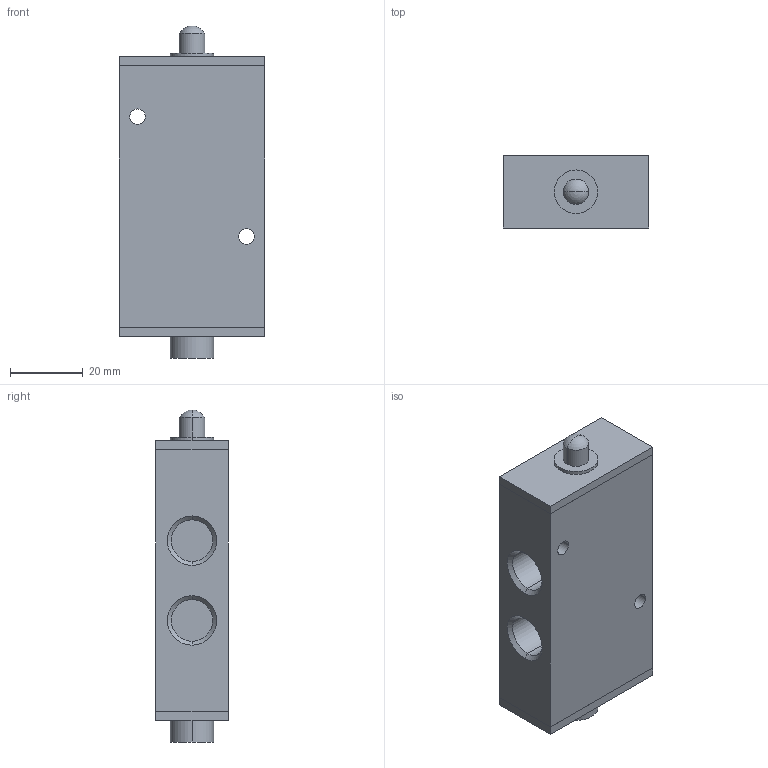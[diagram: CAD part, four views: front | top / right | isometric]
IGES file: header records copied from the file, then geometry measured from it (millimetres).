
Global section: file name: No Iges File Name specified; native system: AutoDesk Inventor R11.0; preprocessor: AutoDesk Inventor Iges Exporter R11.0; author: No Author specified; organization: No Organization specified; date: 20061219.113343; units: millimetre
Bounding box: 40 x 20 x 91.5 mm (x, y, z)
Volume: 56560.1 mm3; surface area: 13495.2 mm2
Topology: 1 solids, 1 shells, 55 faces, 120 edges, 75 vertices
Faces by surface type: bspline 25, plane 18, cylinder 6, revolution 4, sphere 2
